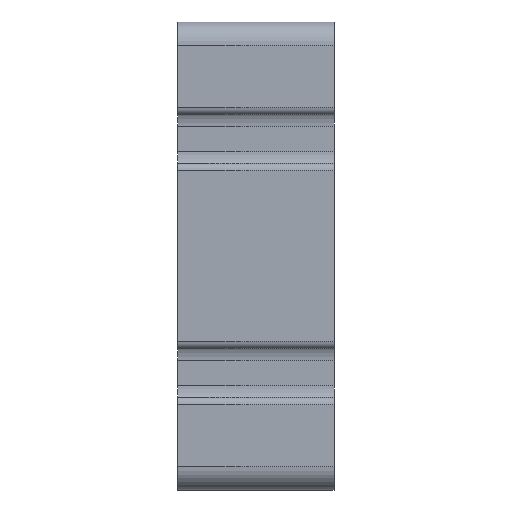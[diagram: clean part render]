
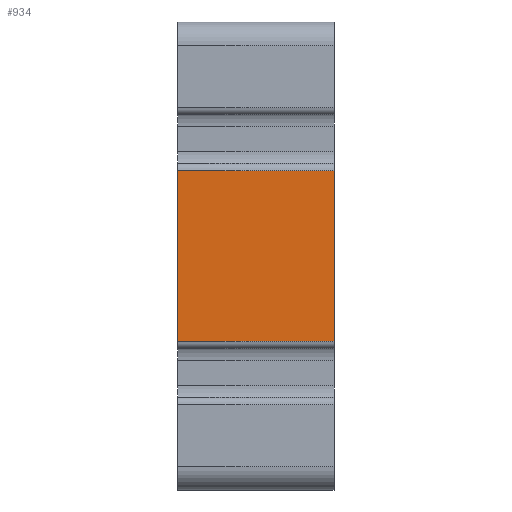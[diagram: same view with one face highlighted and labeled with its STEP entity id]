
A CAD part, left-side view. The second image highlights one B-rep face of the part: STEP entity #934.
In plain terms, the highlighted planar face has unit normal (-1, 0, 0).
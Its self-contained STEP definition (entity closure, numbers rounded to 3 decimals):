
#934=ADVANCED_FACE('',(#1903),#1904,.T.);
#1903=FACE_OUTER_BOUND('',#2908,.T.);
#1904=PLANE('',#2909);
#2908=EDGE_LOOP('',(#5605,#5606,#5607,#5608));
#2909=AXIS2_PLACEMENT_3D('',#5609,#5610,#5611);
#5605=ORIENTED_EDGE('',*,*,#7349,.T.);
#5606=ORIENTED_EDGE('',*,*,#6918,.F.);
#5607=ORIENTED_EDGE('',*,*,#7401,.T.);
#5608=ORIENTED_EDGE('',*,*,#7421,.T.);
#5609=CARTESIAN_POINT('',(-60.0,10.0,0.0));
#5610=DIRECTION('',(-1.0,0.0,0.0));
#5611=DIRECTION('',(0.0,0.0,-1.0));
#6918=EDGE_CURVE('',#8589,#8591,#8592,.T.);
#7349=EDGE_CURVE('',#9209,#8591,#9211,.T.);
#7401=EDGE_CURVE('',#8589,#9279,#9282,.T.);
#7421=EDGE_CURVE('',#9279,#9209,#9307,.T.);
#8589=VERTEX_POINT('',#10825);
#8591=VERTEX_POINT('',#10827);
#8592=LINE('',#10828,#10829);
#9209=VERTEX_POINT('',#11662);
#9211=LINE('',#11664,#11665);
#9279=VERTEX_POINT('',#11758);
#9282=LINE('',#11761,#11762);
#9307=LINE('',#11796,#11797);
#10825=CARTESIAN_POINT('',(-60.,10.0,-10.9));
#10827=CARTESIAN_POINT('',(-60.0,10.0,10.9));
#10828=CARTESIAN_POINT('',(-60.0,10.0,-27.0));
#10829=VECTOR('',#12957,1.0);
#11662=CARTESIAN_POINT('',(-60.0,-10.0,10.9));
#11664=CARTESIAN_POINT('',(-60.0,0.0,10.9));
#11665=VECTOR('',#13453,1.0);
#11758=CARTESIAN_POINT('',(-60.,-10.0,-10.9));
#11761=CARTESIAN_POINT('',(-60.0,10.0,-10.9));
#11762=VECTOR('',#13506,1.0);
#11796=CARTESIAN_POINT('',(-60.0,-10.0,-27.0));
#11797=VECTOR('',#13525,1.0);
#12957=DIRECTION('',(0.0,0.0,1.0));
#13453=DIRECTION('',(-0.0,1.0,0.0));
#13506=DIRECTION('',(0.0,-1.0,0.0));
#13525=DIRECTION('',(0.0,0.0,1.0));
